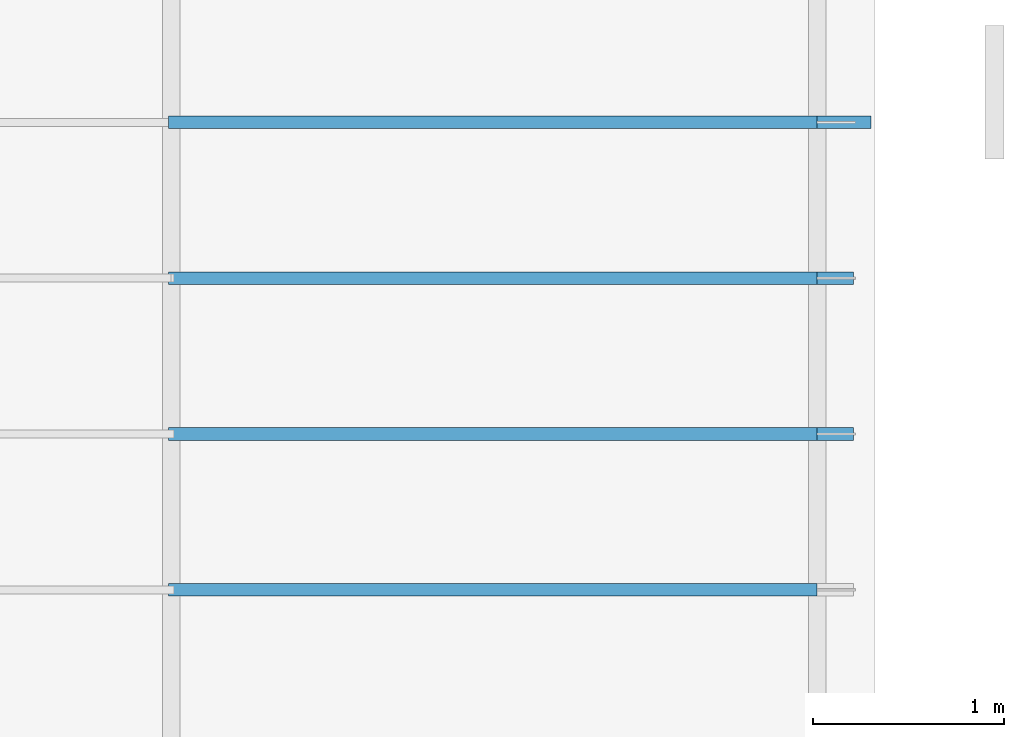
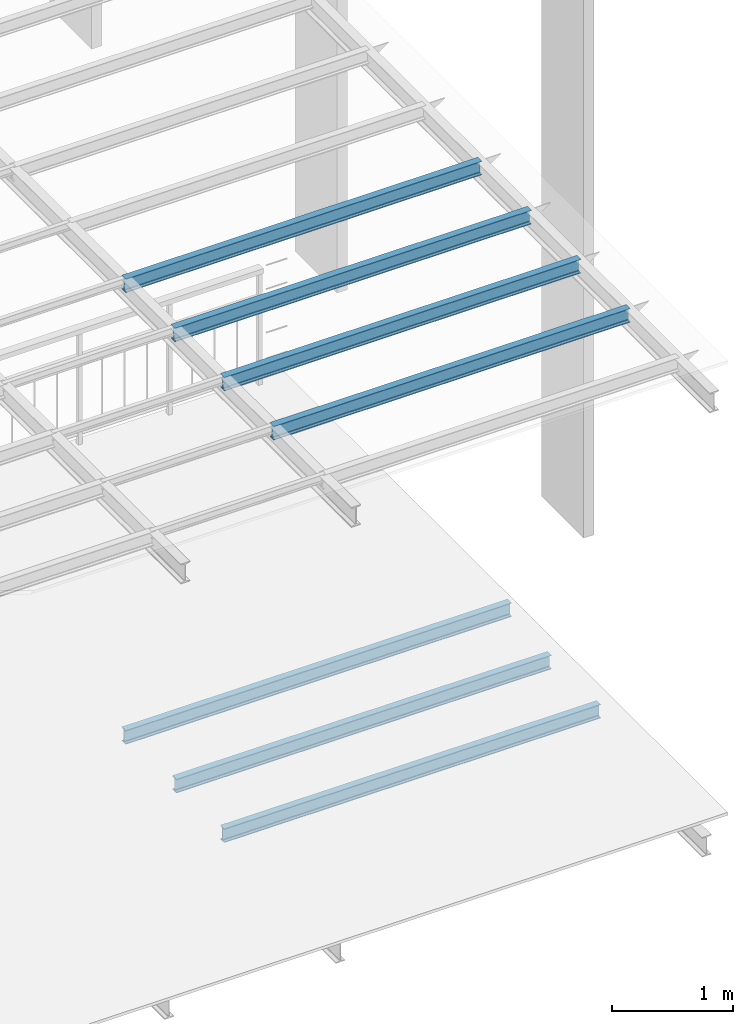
# One storey, part 6 of 33: 7 beams.
"""IFC2X3 building model written with IfcOpenShell, lengths in metres."""

from ifc_helpers import new_model, entity, si_unit, converted_unit, derived_unit, direction, frame, frame_2d, origin, place, context, subcontext, project, spatial, polyline, circle_curve, parameter, trimmed, segment, composite_curve, outline, extrude, material, type_object, element, save


model = new_model("IFC2X3")

# Units and contexts
model_context = context("Model", 3, precision=1e-05, world=origin(), true_north=direction((6.12303176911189e-17, 1.0)))
body_context = subcontext(model_context, "Body", "Model", "MODEL_VIEW")
ifc_project = project(units=[si_unit("LENGTHUNIT", "METRE"), si_unit("AREAUNIT", "SQUARE_METRE"), si_unit("VOLUMEUNIT", "CUBIC_METRE"), converted_unit("PLANEANGLEUNIT", "DEGREE", entity("IfcRatioMeasure", 0.0174532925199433), si_unit("PLANEANGLEUNIT", "RADIAN"), dimensions=[0, 0, 0, 0, 0, 0, 0]), si_unit("MASSUNIT", "GRAM", prefix="KILO"), derived_unit("MASSDENSITYUNIT", [(si_unit("MASSUNIT", "GRAM", prefix="KILO"), 1), (si_unit("LENGTHUNIT", "METRE"), -3)]), derived_unit("MOMENTOFINERTIAUNIT", [(si_unit("LENGTHUNIT", "METRE"), 4)]), si_unit("TIMEUNIT", "SECOND"), si_unit("FREQUENCYUNIT", "HERTZ"), si_unit("THERMODYNAMICTEMPERATUREUNIT", "DEGREE_CELSIUS"), derived_unit("THERMALTRANSMITTANCEUNIT", [(si_unit("MASSUNIT", "GRAM", prefix="KILO"), 1), (si_unit("THERMODYNAMICTEMPERATUREUNIT", "KELVIN"), -1), (si_unit("TIMEUNIT", "SECOND"), -3)]), derived_unit("VOLUMETRICFLOWRATEUNIT", [(si_unit("LENGTHUNIT", "METRE"), 3), (si_unit("TIMEUNIT", "SECOND"), -1)]), si_unit("ELECTRICCURRENTUNIT", "AMPERE"), si_unit("ELECTRICVOLTAGEUNIT", "VOLT"), si_unit("POWERUNIT", "WATT"), si_unit("FORCEUNIT", "NEWTON", prefix="KILO"), si_unit("ILLUMINANCEUNIT", "LUX"), si_unit("LUMINOUSFLUXUNIT", "LUMEN"), si_unit("LUMINOUSINTENSITYUNIT", "CANDELA"), derived_unit("USERDEFINED", [(si_unit("MASSUNIT", "GRAM", prefix="KILO"), -1), (si_unit("LENGTHUNIT", "METRE"), -2), (si_unit("TIMEUNIT", "SECOND"), 3), (si_unit("LUMINOUSFLUXUNIT", "LUMEN"), 1)]), derived_unit("LINEARVELOCITYUNIT", [(si_unit("LENGTHUNIT", "METRE"), 1), (si_unit("TIMEUNIT", "SECOND"), -1)]), si_unit("PRESSUREUNIT", "PASCAL"), derived_unit("USERDEFINED", [(si_unit("LENGTHUNIT", "METRE"), -2), (si_unit("MASSUNIT", "GRAM", prefix="KILO"), 1), (si_unit("TIMEUNIT", "SECOND"), -2)]), derived_unit("LINEARFORCEUNIT", [(si_unit("MASSUNIT", "GRAM", prefix="KILO"), 1), (si_unit("LENGTHUNIT", "METRE"), 1), (si_unit("TIMEUNIT", "SECOND"), -2), (si_unit("LENGTHUNIT", "METRE"), -1)]), derived_unit("PLANARFORCEUNIT", [(si_unit("MASSUNIT", "GRAM", prefix="KILO"), 1), (si_unit("LENGTHUNIT", "METRE"), 1), (si_unit("TIMEUNIT", "SECOND"), -2), (si_unit("LENGTHUNIT", "METRE"), -2)])], contexts=[model_context])

# Site, building, storey
site_placement = place(None, origin())
site = spatial("IfcSite", under=ifc_project, at=site_placement, Name="Superficie", CompositionType="ELEMENT")
building_placement = place(site_placement, origin())
building = spatial("IfcBuilding", under=site, at=building_placement, Name="Telegestiones", CompositionType="ELEMENT")
storey_placement = place(building_placement, frame((0.0, 0.0, 4.94)))
storey = spatial("IfcBuildingStorey", under=building, at=storey_placement, Name="Nivel 1_NPT", CompositionType="ELEMENT", Elevation=4.94)

# Beams
ifc_material = material(Name="Metal - Acero - 345 MPa")
beam_type = type_object("IfcBeamType", Name="IPN - Secciones en I con alas cónicas:IPN 140", PredefinedType="NOTDEFINED")
beam_1_placement = place(storey_placement, frame((11.2608126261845, -2.22639277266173, 0.0)))
element("IfcBeam", 1, at=beam_1_placement, inside=storey, type_object=beam_type, material=ifc_material, Name="IPN - Secciones en I con alas cónicas:IPN 140", ObjectType="IPN - Secciones en I con alas cónicas:IPN 140", context=body_context, shape_type="SweptSolid", body=[
    extrude(outline(composite_curve([segment(polyline([(0.0666671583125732, -0.0330000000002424), (0.0699999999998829, -0.0330000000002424)]), True, "CONTINUOUS"), segment(polyline([(0.0699999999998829, -0.0330000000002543), (0.0700000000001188, 0.0329999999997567)]), True, "CONTINUOUS"), segment(polyline([(0.0700000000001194, 0.0329999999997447), (0.0666671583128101, 0.0329999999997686)]), True, "CONTINUOUS"), segment(trimmed(circle_curve(frame_2d((0.066667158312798, 0.0295999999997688), x_axis=(0.0, 1.0)), 0.00339999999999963), [parameter(0.0)], [parameter(82.0303896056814)], True, "PARAMETER"), True, "CONTINUOUS"), segment(polyline([(0.0632999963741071, 0.0300714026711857), (0.0601763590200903, 0.00775970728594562)]), True, "CONTINUOUS"), segment(trimmed(circle_curve(frame_2d((0.0545314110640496, 0.00854999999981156), x_axis=(0.990341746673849, -0.138647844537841)), 0.0056999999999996), [parameter(277.969610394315)], [parameter(0.0)], True, "PARAMETER"), False, "CONTINUOUS"), segment(polyline([(0.0545314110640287, 0.00284999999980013), (-0.0545314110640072, 0.00285000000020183)]), True, "CONTINUOUS"), segment(trimmed(circle_curve(frame_2d((-0.0545314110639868, 0.00855000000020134), x_axis=(0.0, -1.0)), 0.00569999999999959), [parameter(277.969610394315)], [parameter(0.0)], True, "PARAMETER"), False, "CONTINUOUS"), segment(polyline([(-0.0601763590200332, 0.00775970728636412), (-0.06329999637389, 0.0300714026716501)]), True, "CONTINUOUS"), segment(trimmed(circle_curve(frame_2d((-0.0666671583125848, 0.0296000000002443), x_axis=(0.990341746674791, 0.13864784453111)), 0.00340000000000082), [parameter(0.0)], [parameter(82.0303896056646)], True, "PARAMETER"), True, "CONTINUOUS"), segment(polyline([(-0.0666671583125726, 0.0330000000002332), (-0.0699999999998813, 0.033000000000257)]), True, "CONTINUOUS"), segment(polyline([(-0.0699999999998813, 0.0330000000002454), (-0.0700000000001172, -0.032999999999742)]), True, "CONTINUOUS"), segment(polyline([(-0.0700000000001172, -0.032999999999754), (-0.0666671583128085, -0.032999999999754)]), True, "CONTINUOUS"), segment(trimmed(circle_curve(frame_2d((-0.0666671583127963, -0.0295999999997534), x_axis=(0.0, -1.0)), 0.00340000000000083), [parameter(0.0)], [parameter(82.0303896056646)], True, "PARAMETER"), True, "CONTINUOUS"), segment(polyline([(-0.0632999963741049, -0.0300714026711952), (-0.0601763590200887, -0.00775970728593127)]), True, "CONTINUOUS"), segment(trimmed(circle_curve(frame_2d((-0.0545314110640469, -0.00854999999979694), x_axis=(-0.990341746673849, 0.138647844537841)), 0.00569999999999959), [parameter(277.969610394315)], [parameter(0.0)], True, "PARAMETER"), False, "CONTINUOUS"), segment(polyline([(-0.0545314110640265, -0.00284999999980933), (0.0545314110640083, -0.00285000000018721)]), True, "CONTINUOUS"), segment(trimmed(circle_curve(frame_2d((0.0545314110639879, -0.00855000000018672), x_axis=(0.0, 1.0)), 0.0056999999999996), [parameter(277.969610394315)], [parameter(0.0)], True, "PARAMETER"), False, "CONTINUOUS"), segment(polyline([(0.0601763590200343, -0.00775970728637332), (0.0632999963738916, -0.0300714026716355)]), True, "CONTINUOUS"), segment(trimmed(circle_curve(frame_2d((0.0666671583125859, -0.0296000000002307), x_axis=(-0.990341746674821, -0.138647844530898)), 0.00340000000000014), [parameter(0.0)], [parameter(82.0303896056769)], True, "PARAMETER"), True, "CONTINUOUS")], self_intersect=False)), frame((0.00108254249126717, 0.0, -0.100000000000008), z_axis=(1.0, 0.0, 0.0), x_axis=(0.0, 0.0, -1.0)), (0.0, 0.0, 1.0), 3.686),
])
beam_2_placement = place(storey_placement, frame((11.2748126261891, -3.04414277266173, 0.0)))
element("IfcBeam", 2, at=beam_2_placement, inside=storey, type_object=beam_type, material=ifc_material, Name="IPN - Secciones en I con alas cónicas:IPN 140", ObjectType="IPN - Secciones en I con alas cónicas:IPN 140", context=body_context, shape_type="SweptSolid", body=[
    extrude(outline(composite_curve([segment(polyline([(0.0666671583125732, -0.0330000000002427), (0.0699999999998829, -0.0330000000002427)]), True, "CONTINUOUS"), segment(polyline([(0.0699999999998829, -0.0330000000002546), (0.0700000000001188, 0.0329999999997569)]), True, "CONTINUOUS"), segment(polyline([(0.0700000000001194, 0.032999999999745), (0.0666671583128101, 0.0329999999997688)]), True, "CONTINUOUS"), segment(trimmed(circle_curve(frame_2d((0.0666671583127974, 0.0295999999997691), x_axis=(0.0, 1.0)), 0.00339999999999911), [parameter(0.0)], [parameter(82.0303896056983)], True, "PARAMETER"), True, "CONTINUOUS"), segment(polyline([(0.0632999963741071, 0.0300714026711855), (0.0601763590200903, 0.00775970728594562)]), True, "CONTINUOUS"), segment(trimmed(circle_curve(frame_2d((0.0545314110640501, 0.00854999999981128), x_axis=(0.990341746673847, -0.138647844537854)), 0.00569999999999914), [parameter(277.969610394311)], [parameter(0.0)], True, "PARAMETER"), False, "CONTINUOUS"), segment(polyline([(0.0545314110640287, 0.00284999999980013), (-0.0545314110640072, 0.00285000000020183)]), True, "CONTINUOUS"), segment(trimmed(circle_curve(frame_2d((-0.0545314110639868, 0.00855000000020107), x_axis=(0.0, -1.0)), 0.00569999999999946), [parameter(277.969610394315)], [parameter(0.0)], True, "PARAMETER"), False, "CONTINUOUS"), segment(polyline([(-0.0601763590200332, 0.00775970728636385), (-0.06329999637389, 0.0300714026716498)]), True, "CONTINUOUS"), segment(trimmed(circle_curve(frame_2d((-0.0666671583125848, 0.0296000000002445), x_axis=(0.990341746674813, 0.138647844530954)), 0.0034000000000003), [parameter(0.0)], [parameter(82.0303896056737)], True, "PARAMETER"), True, "CONTINUOUS"), segment(polyline([(-0.0666671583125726, 0.0330000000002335), (-0.0699999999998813, 0.0330000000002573)]), True, "CONTINUOUS"), segment(polyline([(-0.0699999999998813, 0.0330000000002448), (-0.0700000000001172, -0.0329999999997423)]), True, "CONTINUOUS"), segment(polyline([(-0.0700000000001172, -0.0329999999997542), (-0.0666671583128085, -0.0329999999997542)]), True, "CONTINUOUS"), segment(trimmed(circle_curve(frame_2d((-0.0666671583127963, -0.0295999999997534), x_axis=(0.0, -1.0)), 0.0034000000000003), [parameter(0.0)], [parameter(82.0303896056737)], True, "PARAMETER"), True, "CONTINUOUS"), segment(polyline([(-0.0632999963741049, -0.0300714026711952), (-0.0601763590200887, -0.00775970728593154)]), True, "CONTINUOUS"), segment(trimmed(circle_curve(frame_2d((-0.054531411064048, -0.00854999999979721), x_axis=(-0.990341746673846, 0.138647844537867)), 0.00569999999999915), [parameter(277.969610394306)], [parameter(0.0)], True, "PARAMETER"), False, "CONTINUOUS"), segment(polyline([(-0.0545314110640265, -0.00284999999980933), (0.0545314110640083, -0.00285000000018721)]), True, "CONTINUOUS"), segment(trimmed(circle_curve(frame_2d((0.0545314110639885, -0.00855000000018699), x_axis=(0.0, 1.0)), 0.00569999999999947), [parameter(277.969610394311)], [parameter(0.0)], True, "PARAMETER"), False, "CONTINUOUS"), segment(polyline([(0.0601763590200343, -0.00775970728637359), (0.0632999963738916, -0.0300714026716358)]), True, "CONTINUOUS"), segment(trimmed(circle_curve(frame_2d((0.0666671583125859, -0.0296000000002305), x_axis=(-0.990341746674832, -0.13864784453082)), 0.00339999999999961), [parameter(0.0)], [parameter(82.0303896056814)], True, "PARAMETER"), True, "CONTINUOUS")], self_intersect=False)), frame((0.0, 0.0, -0.100000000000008), z_axis=(1.0, 0.0, 0.0), x_axis=(0.0, 0.0, -1.0)), (0.0, 0.0, 1.0), 3.57999999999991),
])
beam_3_placement = place(storey_placement, frame((11.2748126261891, -3.86189277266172, 0.0)))
element("IfcBeam", 3, at=beam_3_placement, inside=storey, type_object=beam_type, material=ifc_material, Name="IPN - Secciones en I con alas cónicas:IPN 140", ObjectType="IPN - Secciones en I con alas cónicas:IPN 140", context=body_context, shape_type="SweptSolid", body=[
    extrude(outline(composite_curve([segment(polyline([(0.0666671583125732, -0.0330000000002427), (0.0699999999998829, -0.0330000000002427)]), True, "CONTINUOUS"), segment(polyline([(0.0699999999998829, -0.0330000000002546), (0.0700000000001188, 0.0329999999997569)]), True, "CONTINUOUS"), segment(polyline([(0.0700000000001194, 0.032999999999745), (0.0666671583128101, 0.0329999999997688)]), True, "CONTINUOUS"), segment(trimmed(circle_curve(frame_2d((0.0666671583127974, 0.0295999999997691), x_axis=(0.0, 1.0)), 0.00339999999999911), [parameter(0.0)], [parameter(82.0303896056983)], True, "PARAMETER"), True, "CONTINUOUS"), segment(polyline([(0.0632999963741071, 0.0300714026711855), (0.0601763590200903, 0.00775970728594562)]), True, "CONTINUOUS"), segment(trimmed(circle_curve(frame_2d((0.0545314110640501, 0.00854999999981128), x_axis=(0.990341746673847, -0.138647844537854)), 0.00569999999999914), [parameter(277.969610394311)], [parameter(0.0)], True, "PARAMETER"), False, "CONTINUOUS"), segment(polyline([(0.0545314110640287, 0.00284999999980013), (-0.0545314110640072, 0.00285000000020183)]), True, "CONTINUOUS"), segment(trimmed(circle_curve(frame_2d((-0.0545314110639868, 0.00855000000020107), x_axis=(0.0, -1.0)), 0.00569999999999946), [parameter(277.969610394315)], [parameter(0.0)], True, "PARAMETER"), False, "CONTINUOUS"), segment(polyline([(-0.0601763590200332, 0.00775970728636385), (-0.06329999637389, 0.0300714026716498)]), True, "CONTINUOUS"), segment(trimmed(circle_curve(frame_2d((-0.0666671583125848, 0.0296000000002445), x_axis=(0.990341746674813, 0.138647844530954)), 0.0034000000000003), [parameter(0.0)], [parameter(82.0303896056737)], True, "PARAMETER"), True, "CONTINUOUS"), segment(polyline([(-0.0666671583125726, 0.0330000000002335), (-0.0699999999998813, 0.0330000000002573)]), True, "CONTINUOUS"), segment(polyline([(-0.0699999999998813, 0.0330000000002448), (-0.0700000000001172, -0.0329999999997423)]), True, "CONTINUOUS"), segment(polyline([(-0.0700000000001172, -0.0329999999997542), (-0.0666671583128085, -0.0329999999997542)]), True, "CONTINUOUS"), segment(trimmed(circle_curve(frame_2d((-0.0666671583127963, -0.0295999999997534), x_axis=(0.0, -1.0)), 0.0034000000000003), [parameter(0.0)], [parameter(82.0303896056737)], True, "PARAMETER"), True, "CONTINUOUS"), segment(polyline([(-0.0632999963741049, -0.0300714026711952), (-0.0601763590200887, -0.00775970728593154)]), True, "CONTINUOUS"), segment(trimmed(circle_curve(frame_2d((-0.054531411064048, -0.00854999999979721), x_axis=(-0.990341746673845, 0.138647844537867)), 0.00569999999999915), [parameter(277.969610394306)], [parameter(0.0)], True, "PARAMETER"), False, "CONTINUOUS"), segment(polyline([(-0.0545314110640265, -0.00284999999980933), (0.0545314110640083, -0.00285000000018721)]), True, "CONTINUOUS"), segment(trimmed(circle_curve(frame_2d((0.0545314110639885, -0.00855000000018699), x_axis=(0.0, 1.0)), 0.00569999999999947), [parameter(277.969610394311)], [parameter(0.0)], True, "PARAMETER"), False, "CONTINUOUS"), segment(polyline([(0.0601763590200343, -0.00775970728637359), (0.0632999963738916, -0.0300714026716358)]), True, "CONTINUOUS"), segment(trimmed(circle_curve(frame_2d((0.0666671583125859, -0.0296000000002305), x_axis=(-0.990341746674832, -0.13864784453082)), 0.00339999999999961), [parameter(0.0)], [parameter(82.0303896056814)], True, "PARAMETER"), True, "CONTINUOUS")], self_intersect=False)), frame((-0.0149999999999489, 0.0, -0.100000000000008), z_axis=(1.0, 0.0, 0.0), x_axis=(0.0, 0.0, -1.0)), (0.0, 0.0, 1.0), 3.59499999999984),
])
beam_4_placement = place(storey_placement, frame((11.2608126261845, -2.22639277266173, 4.56)))
element("IfcBeam", 4, at=beam_4_placement, inside=storey, type_object=beam_type, material=ifc_material, Name="IPN - Secciones en I con alas cónicas:IPN 140", ObjectType="IPN - Secciones en I con alas cónicas:IPN 140", context=body_context, shape_type="SweptSolid", body=[
    extrude(outline(composite_curve([segment(polyline([(0.0666671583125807, -0.0330000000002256), (0.0699999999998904, -0.0330000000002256)]), True, "CONTINUOUS"), segment(polyline([(0.0699999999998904, -0.0330000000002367), (0.0700000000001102, 0.0329999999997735)]), True, "CONTINUOUS"), segment(polyline([(0.0700000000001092, 0.0329999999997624), (0.0666671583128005, 0.0329999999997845)]), True, "CONTINUOUS"), segment(trimmed(circle_curve(frame_2d((0.0666671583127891, 0.0295999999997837), x_axis=(0.0, 1.0)), 0.00340000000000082), [parameter(0.0)], [parameter(82.0303896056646)], True, "PARAMETER"), True, "CONTINUOUS"), segment(polyline([(0.0632999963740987, 0.0300714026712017), (0.0601763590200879, 0.00775970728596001)]), True, "CONTINUOUS"), segment(trimmed(circle_curve(frame_2d((0.0545314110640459, 0.00854999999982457), x_axis=(0.990341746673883, -0.1386478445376)), 0.0056999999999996), [parameter(277.969610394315)], [parameter(0.0)], True, "PARAMETER"), False, "CONTINUOUS"), segment(polyline([(0.0545314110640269, 0.00284999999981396), (-0.054531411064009, 0.00285000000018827)]), True, "CONTINUOUS"), segment(trimmed(circle_curve(frame_2d((-0.05453141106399, 0.00855000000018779), x_axis=(0.0, -1.0)), 0.00569999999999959), [parameter(277.969610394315)], [parameter(0.0)], True, "PARAMETER"), False, "CONTINUOUS"), segment(polyline([(-0.0601763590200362, 0.00775970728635), (-0.0632999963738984, 0.0300714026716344)]), True, "CONTINUOUS"), segment(trimmed(circle_curve(frame_2d((-0.0666671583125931, 0.0296000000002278), x_axis=(0.990341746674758, 0.138647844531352)), 0.00340000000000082), [parameter(0.0)], [parameter(82.0303896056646)], True, "PARAMETER"), True, "CONTINUOUS"), segment(polyline([(-0.0666671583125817, 0.0330000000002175), (-0.0699999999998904, 0.0330000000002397)]), True, "CONTINUOUS"), segment(polyline([(-0.0699999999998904, 0.0330000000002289), (-0.0700000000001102, -0.0329999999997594)]), True, "CONTINUOUS"), segment(polyline([(-0.0700000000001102, -0.0329999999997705), (-0.0666671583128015, -0.0329999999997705)]), True, "CONTINUOUS"), segment(trimmed(circle_curve(frame_2d((-0.0666671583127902, -0.0295999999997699), x_axis=(0.0, -1.0)), 0.00340000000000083), [parameter(0.0)], [parameter(82.0303896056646)], True, "PARAMETER"), True, "CONTINUOUS"), segment(polyline([(-0.0632999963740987, -0.0300714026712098), (-0.0601763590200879, -0.00775970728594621)]), True, "CONTINUOUS"), segment(trimmed(circle_curve(frame_2d((-0.0545314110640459, -0.00854999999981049), x_axis=(-0.990341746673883, 0.1386478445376)), 0.00569999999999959), [parameter(277.969610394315)], [parameter(0.0)], True, "PARAMETER"), False, "CONTINUOUS"), segment(polyline([(-0.0545314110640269, -0.00284999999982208), (0.0545314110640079, -0.00285000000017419)]), True, "CONTINUOUS"), segment(trimmed(circle_curve(frame_2d((0.0545314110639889, -0.00855000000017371), x_axis=(0.0, 1.0)), 0.0056999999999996), [parameter(277.969610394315)], [parameter(0.0)], True, "PARAMETER"), False, "CONTINUOUS"), segment(polyline([(0.0601763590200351, -0.00775970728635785), (0.0632999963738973, -0.0300714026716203)]), True, "CONTINUOUS"), segment(trimmed(circle_curve(frame_2d((0.066667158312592, -0.0296000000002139), x_axis=(-0.990341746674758, -0.138647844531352)), 0.00340000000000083), [parameter(0.0)], [parameter(82.0303896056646)], True, "PARAMETER"), True, "CONTINUOUS")], self_intersect=False)), frame((0.0010000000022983, 0.0, -0.100000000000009), z_axis=(1.0, 0.0, 0.0), x_axis=(0.0, 0.0, -1.0)), (0.0, 0.0, 1.0), 3.403),
])
beam_5_placement = place(storey_placement, frame((11.2748126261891, -3.04414277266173, 4.56)))
element("IfcBeam", 5, at=beam_5_placement, inside=storey, type_object=beam_type, material=ifc_material, Name="IPN - Secciones en I con alas cónicas:IPN 140", ObjectType="IPN - Secciones en I con alas cónicas:IPN 140", context=body_context, shape_type="SweptSolid", body=[
    extrude(outline(composite_curve([segment(polyline([(0.066667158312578, -0.0330000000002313), (0.0699999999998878, -0.0330000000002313)]), True, "CONTINUOUS"), segment(polyline([(0.0699999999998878, -0.0330000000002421), (0.0700000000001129, 0.0329999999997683)]), True, "CONTINUOUS"), segment(polyline([(0.0700000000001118, 0.0329999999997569), (0.0666671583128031, 0.0329999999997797)]), True, "CONTINUOUS"), segment(trimmed(circle_curve(frame_2d((0.0666671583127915, 0.0295999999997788), x_axis=(0.0, 1.0)), 0.0034000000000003), [parameter(0.0)], [parameter(82.0303896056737)], True, "PARAMETER"), True, "CONTINUOUS"), segment(polyline([(0.0632999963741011, 0.0300714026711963), (0.0601763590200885, 0.0077597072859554)]), True, "CONTINUOUS"), segment(trimmed(circle_curve(frame_2d((0.0545314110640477, 0.00854999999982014), x_axis=(0.990341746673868, -0.138647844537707)), 0.00569999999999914), [parameter(277.969610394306)], [parameter(0.0)], True, "PARAMETER"), False, "CONTINUOUS"), segment(polyline([(0.0545314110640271, 0.00284999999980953), (-0.0545314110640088, 0.00285000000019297)]), True, "CONTINUOUS"), segment(trimmed(circle_curve(frame_2d((-0.0545314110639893, 0.00855000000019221), x_axis=(0.0, -1.0)), 0.00569999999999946), [parameter(277.969610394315)], [parameter(0.0)], True, "PARAMETER"), False, "CONTINUOUS"), segment(polyline([(-0.0601763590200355, 0.00775970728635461), (-0.0632999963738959, 0.0300714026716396)]), True, "CONTINUOUS"), segment(trimmed(circle_curve(frame_2d((-0.0666671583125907, 0.0296000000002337), x_axis=(0.990341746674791, 0.138647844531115)), 0.0034000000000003), [parameter(0.0)], [parameter(82.0303896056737)], True, "PARAMETER"), True, "CONTINUOUS"), segment(polyline([(-0.0666671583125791, 0.0330000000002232), (-0.0699999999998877, 0.0330000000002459)]), True, "CONTINUOUS"), segment(polyline([(-0.0699999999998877, 0.033000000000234), (-0.0700000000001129, -0.0329999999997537)]), True, "CONTINUOUS"), segment(polyline([(-0.0700000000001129, -0.0329999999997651), (-0.0666671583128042, -0.0329999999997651)]), True, "CONTINUOUS"), segment(trimmed(circle_curve(frame_2d((-0.0666671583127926, -0.0295999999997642), x_axis=(0.0, -1.0)), 0.0034000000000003), [parameter(0.0)], [parameter(82.0303896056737)], True, "PARAMETER"), True, "CONTINUOUS"), segment(polyline([(-0.0632999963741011, -0.0300714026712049), (-0.0601763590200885, -0.00775970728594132)]), True, "CONTINUOUS"), segment(trimmed(circle_curve(frame_2d((-0.0545314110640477, -0.00854999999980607), x_axis=(-0.990341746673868, 0.138647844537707)), 0.00569999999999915), [parameter(277.969610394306)], [parameter(0.0)], True, "PARAMETER"), False, "CONTINUOUS"), segment(polyline([(-0.0545314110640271, -0.00284999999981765), (0.0545314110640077, -0.00285000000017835)]), True, "CONTINUOUS"), segment(trimmed(circle_curve(frame_2d((0.0545314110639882, -0.00855000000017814), x_axis=(0.0, 1.0)), 0.00569999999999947), [parameter(277.969610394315)], [parameter(0.0)], True, "PARAMETER"), False, "CONTINUOUS"), segment(polyline([(0.0601763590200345, -0.00775970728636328), (0.0632999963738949, -0.0300714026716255)]), True, "CONTINUOUS"), segment(trimmed(circle_curve(frame_2d((0.0666671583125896, -0.0296000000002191), x_axis=(-0.990341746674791, -0.138647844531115)), 0.0034000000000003), [parameter(0.0)], [parameter(82.0303896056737)], True, "PARAMETER"), True, "CONTINUOUS")], self_intersect=False)), frame((-0.0149999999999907, 0.0, -0.100000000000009), z_axis=(1.0, 0.0, 0.0), x_axis=(0.0, 0.0, -1.0)), (0.0, 0.0, 1.0), 3.405),
])
beam_6_placement = place(storey_placement, frame((11.2748126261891, -3.86189277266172, 4.56)))
element("IfcBeam", 6, at=beam_6_placement, inside=storey, type_object=beam_type, material=ifc_material, Name="IPN - Secciones en I con alas cónicas:IPN 140", ObjectType="IPN - Secciones en I con alas cónicas:IPN 140", context=body_context, shape_type="SweptSolid", body=[
    extrude(outline(composite_curve([segment(polyline([(0.066667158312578, -0.0330000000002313), (0.0699999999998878, -0.0330000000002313)]), True, "CONTINUOUS"), segment(polyline([(0.0699999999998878, -0.0330000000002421), (0.0700000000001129, 0.0329999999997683)]), True, "CONTINUOUS"), segment(polyline([(0.0700000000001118, 0.0329999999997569), (0.0666671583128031, 0.0329999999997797)]), True, "CONTINUOUS"), segment(trimmed(circle_curve(frame_2d((0.0666671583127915, 0.0295999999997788), x_axis=(0.0, 1.0)), 0.0034000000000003), [parameter(0.0)], [parameter(82.0303896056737)], True, "PARAMETER"), True, "CONTINUOUS"), segment(polyline([(0.0632999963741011, 0.0300714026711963), (0.0601763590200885, 0.0077597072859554)]), True, "CONTINUOUS"), segment(trimmed(circle_curve(frame_2d((0.0545314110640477, 0.00854999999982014), x_axis=(0.990341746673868, -0.138647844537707)), 0.00569999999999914), [parameter(277.969610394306)], [parameter(0.0)], True, "PARAMETER"), False, "CONTINUOUS"), segment(polyline([(0.0545314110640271, 0.00284999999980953), (-0.0545314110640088, 0.00285000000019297)]), True, "CONTINUOUS"), segment(trimmed(circle_curve(frame_2d((-0.0545314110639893, 0.00855000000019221), x_axis=(0.0, -1.0)), 0.00569999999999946), [parameter(277.969610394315)], [parameter(0.0)], True, "PARAMETER"), False, "CONTINUOUS"), segment(polyline([(-0.0601763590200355, 0.00775970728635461), (-0.0632999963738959, 0.0300714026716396)]), True, "CONTINUOUS"), segment(trimmed(circle_curve(frame_2d((-0.0666671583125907, 0.0296000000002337), x_axis=(0.990341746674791, 0.138647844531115)), 0.0034000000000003), [parameter(0.0)], [parameter(82.0303896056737)], True, "PARAMETER"), True, "CONTINUOUS"), segment(polyline([(-0.0666671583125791, 0.0330000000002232), (-0.0699999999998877, 0.0330000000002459)]), True, "CONTINUOUS"), segment(polyline([(-0.0699999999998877, 0.033000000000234), (-0.0700000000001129, -0.0329999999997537)]), True, "CONTINUOUS"), segment(polyline([(-0.0700000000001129, -0.0329999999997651), (-0.0666671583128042, -0.0329999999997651)]), True, "CONTINUOUS"), segment(trimmed(circle_curve(frame_2d((-0.0666671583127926, -0.0295999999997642), x_axis=(0.0, -1.0)), 0.0034000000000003), [parameter(0.0)], [parameter(82.0303896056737)], True, "PARAMETER"), True, "CONTINUOUS"), segment(polyline([(-0.0632999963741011, -0.0300714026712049), (-0.0601763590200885, -0.00775970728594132)]), True, "CONTINUOUS"), segment(trimmed(circle_curve(frame_2d((-0.0545314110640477, -0.00854999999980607), x_axis=(-0.990341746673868, 0.138647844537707)), 0.00569999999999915), [parameter(277.969610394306)], [parameter(0.0)], True, "PARAMETER"), False, "CONTINUOUS"), segment(polyline([(-0.0545314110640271, -0.00284999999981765), (0.0545314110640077, -0.00285000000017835)]), True, "CONTINUOUS"), segment(trimmed(circle_curve(frame_2d((0.0545314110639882, -0.00855000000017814), x_axis=(0.0, 1.0)), 0.00569999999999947), [parameter(277.969610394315)], [parameter(0.0)], True, "PARAMETER"), False, "CONTINUOUS"), segment(polyline([(0.0601763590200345, -0.00775970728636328), (0.0632999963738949, -0.0300714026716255)]), True, "CONTINUOUS"), segment(trimmed(circle_curve(frame_2d((0.0666671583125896, -0.0296000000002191), x_axis=(-0.990341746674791, -0.138647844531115)), 0.0034000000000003), [parameter(0.0)], [parameter(82.0303896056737)], True, "PARAMETER"), True, "CONTINUOUS")], self_intersect=False)), frame((-0.0149999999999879, 0.0, -0.100000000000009), z_axis=(1.0, 0.0, 0.0), x_axis=(0.0, 0.0, -1.0)), (0.0, 0.0, 1.0), 3.405),
])
beam_7_placement = place(storey_placement, frame((11.274812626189, -4.67964277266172, 4.56)))
element("IfcBeam", 7, at=beam_7_placement, inside=storey, type_object=beam_type, material=ifc_material, Name="IPN - Secciones en I con alas cónicas:IPN 140", ObjectType="IPN - Secciones en I con alas cónicas:IPN 140", context=body_context, shape_type="SweptSolid", body=[
    extrude(outline(composite_curve([segment(polyline([(0.066667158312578, -0.0330000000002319), (0.0699999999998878, -0.0330000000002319)]), True, "CONTINUOUS"), segment(polyline([(0.0699999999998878, -0.0330000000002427), (0.0700000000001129, 0.0329999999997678)]), True, "CONTINUOUS"), segment(polyline([(0.0700000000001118, 0.0329999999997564), (0.0666671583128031, 0.0329999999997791)]), True, "CONTINUOUS"), segment(trimmed(circle_curve(frame_2d((0.0666671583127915, 0.0295999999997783), x_axis=(0.0, 1.0)), 0.0034000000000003), [parameter(0.0)], [parameter(82.0303896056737)], True, "PARAMETER"), True, "CONTINUOUS"), segment(polyline([(0.0632999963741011, 0.0300714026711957), (0.0601763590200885, 0.00775970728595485)]), True, "CONTINUOUS"), segment(trimmed(circle_curve(frame_2d((0.0545314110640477, 0.0085499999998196), x_axis=(0.990341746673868, -0.138647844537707)), 0.00569999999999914), [parameter(277.969610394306)], [parameter(0.0)], True, "PARAMETER"), False, "CONTINUOUS"), segment(polyline([(0.0545314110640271, 0.00284999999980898), (-0.0545314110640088, 0.00285000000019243)]), True, "CONTINUOUS"), segment(trimmed(circle_curve(frame_2d((-0.0545314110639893, 0.00855000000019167), x_axis=(0.0, -1.0)), 0.00569999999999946), [parameter(277.969610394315)], [parameter(0.0)], True, "PARAMETER"), False, "CONTINUOUS"), segment(polyline([(-0.0601763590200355, 0.00775970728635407), (-0.0632999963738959, 0.030071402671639)]), True, "CONTINUOUS"), segment(trimmed(circle_curve(frame_2d((-0.0666671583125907, 0.0296000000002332), x_axis=(0.990341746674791, 0.138647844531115)), 0.0034000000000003), [parameter(0.0)], [parameter(82.0303896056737)], True, "PARAMETER"), True, "CONTINUOUS"), segment(polyline([(-0.0666671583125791, 0.0330000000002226), (-0.0699999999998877, 0.0330000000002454)]), True, "CONTINUOUS"), segment(polyline([(-0.0699999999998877, 0.0330000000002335), (-0.0700000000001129, -0.0329999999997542)]), True, "CONTINUOUS"), segment(polyline([(-0.0700000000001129, -0.0329999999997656), (-0.0666671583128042, -0.0329999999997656)]), True, "CONTINUOUS"), segment(trimmed(circle_curve(frame_2d((-0.0666671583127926, -0.0295999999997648), x_axis=(0.0, -1.0)), 0.0034000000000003), [parameter(0.0)], [parameter(82.0303896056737)], True, "PARAMETER"), True, "CONTINUOUS"), segment(polyline([(-0.0632999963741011, -0.0300714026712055), (-0.0601763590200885, -0.00775970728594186)]), True, "CONTINUOUS"), segment(trimmed(circle_curve(frame_2d((-0.0545314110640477, -0.00854999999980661), x_axis=(-0.990341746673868, 0.138647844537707)), 0.00569999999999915), [parameter(277.969610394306)], [parameter(0.0)], True, "PARAMETER"), False, "CONTINUOUS"), segment(polyline([(-0.0545314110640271, -0.00284999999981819), (0.0545314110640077, -0.00285000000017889)]), True, "CONTINUOUS"), segment(trimmed(circle_curve(frame_2d((0.0545314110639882, -0.00855000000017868), x_axis=(0.0, 1.0)), 0.00569999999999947), [parameter(277.969610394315)], [parameter(0.0)], True, "PARAMETER"), False, "CONTINUOUS"), segment(polyline([(0.0601763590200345, -0.00775970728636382), (0.0632999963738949, -0.030071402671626)]), True, "CONTINUOUS"), segment(trimmed(circle_curve(frame_2d((0.0666671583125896, -0.0296000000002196), x_axis=(-0.990341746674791, -0.138647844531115)), 0.0034000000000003), [parameter(0.0)], [parameter(82.0303896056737)], True, "PARAMETER"), True, "CONTINUOUS")], self_intersect=False)), frame((-0.0149999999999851, 0.0, -0.100000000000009), z_axis=(1.0, 0.0, 0.0), x_axis=(0.0, 0.0, -1.0)), (0.0, 0.0, 1.0), 3.405),
])

save(model, "model.ifc")
